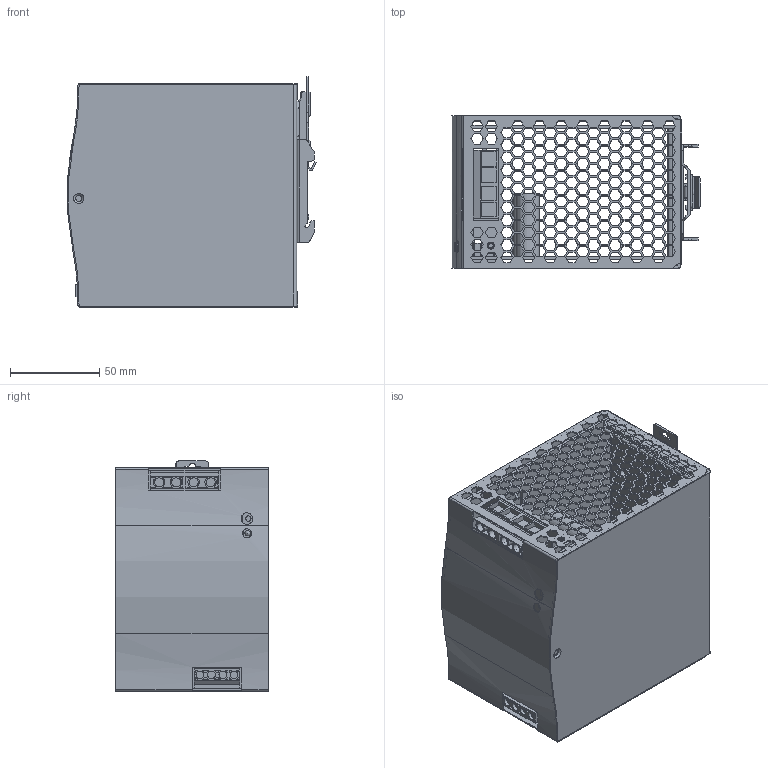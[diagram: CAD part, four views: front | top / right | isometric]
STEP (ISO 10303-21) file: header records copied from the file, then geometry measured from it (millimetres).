
FILE_DESCRIPTION((''),'2;1');
FILE_NAME('C:\Users\shirley\Desktop\TDR-480-3D.stp','2020-08-14T16:35:08',('shirley'),(''),'Autodesk Inventor 2010','Autodesk Inventor 2010','');
FILE_SCHEMA(('AUTOMOTIVE_DESIGN { 1 0 10303 214 1 1 1 1 }'));
Length unit declared in the file: millimetre
Products named in the file (22): TDR-480-3D; C; ¤ïÊl; pcb2; 零件109; B; HS2; pcb3; PCB1; A; HS2_1; a2; VR; LED; PCB1_1; p3; ¤ïÊl2; ˋ°Ûy; 掛座DRP14; P1; P3
Assembly tree (23 placements, depth 5):
  TDR-480-3D
    C
      ¤ïÊl
      pcb2
    零件109
    B
      HS2
      pcb3
        PCB1
    A
      HS2_1
      PCB1
        a2
          VR  x2
          LED
        PCB1_1
    p3  x2
    ¤ïÊl2
    ˋ°Ûy
    掛座DRP14
      P1
      P3
Bounding box: 139.17 x 85.5 x 128.91 mm (x, y, z)
Volume: 206739.5 mm3; surface area: 250721.5 mm2
Topology: 16 solids, 16 shells, 3118 faces, 9102 edges, 6051 vertices
Faces by surface type: plane 2789, cylinder 277, cone 47, torus 4, bspline 1
Full cylindrical faces by diameter (mm): 2.3 x4, 2.6 x9, 2.65 x2, 3 x3, 3.4 x12, 3.5 x10, 3.61 x2, 4 x7, 4.2 x1, 4.3 x4, 5 x1, 5.1 x4, 6.5 x1, 13.5 x5
Entity records: 105816 total; most frequent: CARTESIAN_POINT 21265, ORIENTED_EDGE 17840, DIRECTION 15789, EDGE_CURVE 8920, VECTOR 8283, LINE 8283, VERTEX_POINT 5987, EDGE_LOOP 4085
